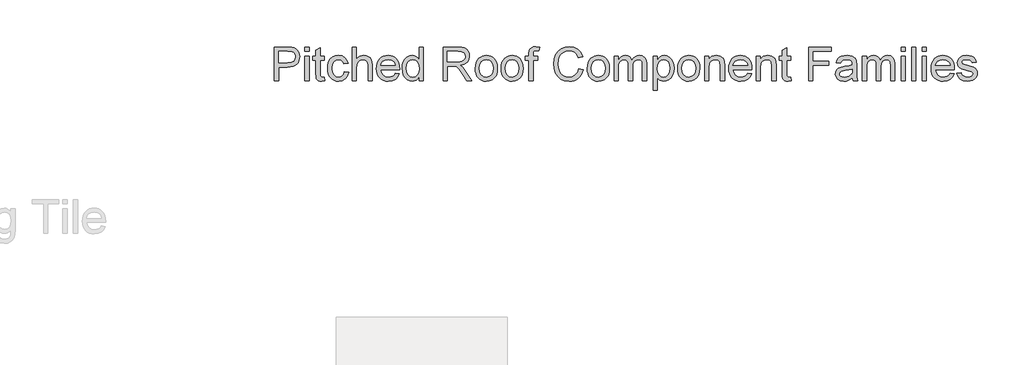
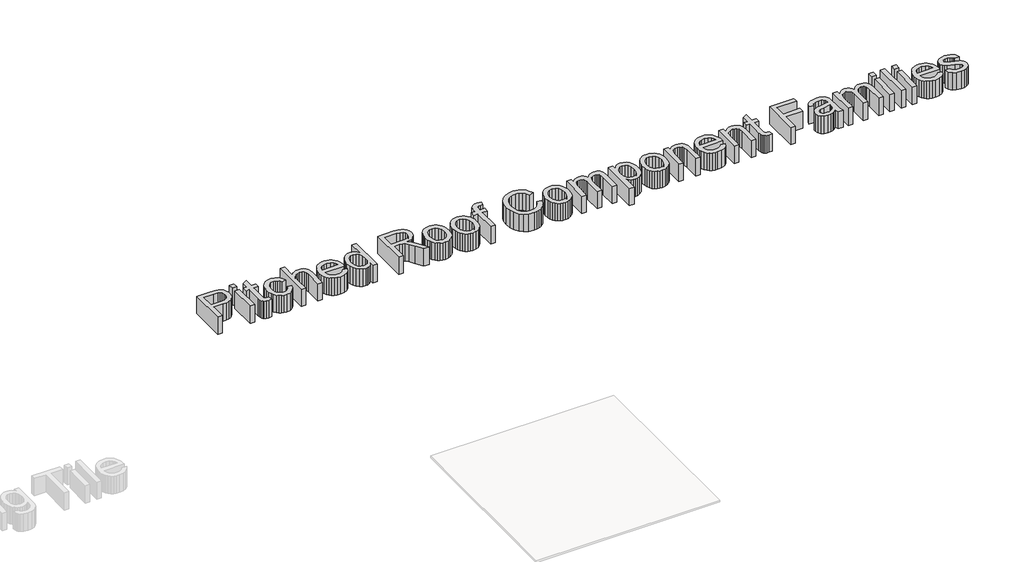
# One storey, part 4 of 4: 1 proxy.
"""IFC4 building model written with IfcOpenShell, lengths in millimetres."""

from ifc_helpers import new_model, si_unit, frame, origin, place, context, project, spatial, polyline, outline, extrude, element, save

model = new_model("IFC4")

# Units and contexts
model_context = context("Model", 3, world=origin())
ifc_project = project(units=[si_unit("LENGTHUNIT", "METRE", prefix="MILLI")], contexts=[model_context])

# Site, building, storey
site = spatial("IfcSite", under=ifc_project)
building = spatial("IfcBuilding", under=site)
storey = spatial("IfcBuildingStorey", under=building, Name="Marley Concrete Interlocking Tiles", Elevation=3000.0)

# Proxy
placement = place(None, origin())
element("IfcBuildingElementProxy", 1, Name="600mm Arial", ObjectType="600mm Arial", at=placement, inside=storey, context=model_context, shape_type="SweptSolid", body=[
    extrude(outline(polyline([(-9179.8301129, 4335.3619966), (-9179.8301129, 4630.746612), (-9070.3589591, 4630.746612), (-9026.2243437, 4627.934112), (-9006.5458581, 4622.6787034), (-8990.3469399, 4614.1240159), (-8977.3030697, 4601.8824293), (-8967.0897283, 4585.5663236), (-8960.4911706, 4566.3205303), (-8958.2916514, 4545.2898813), (-8964.2321562, 4510.4761793), (-8971.6577872, 4495.2463115), (-8982.0536706, 4481.4677659), (-8996.325756, 4470.0464918), (-9015.3799928, 4461.8884389), (-9039.216381, 4456.9936072), (-9067.8349206, 4455.3619966), (-9142.907036, 4455.3619966), (-9142.907036, 4335.3619966), (-9179.8301129, 4335.3619966)]), holes=[polyline([(-9142.907036, 4492.2850736), (-9065.6714591, 4492.2850736), (-9032.9310745, 4495.6744966), (-9011.2964591, 4505.8427659), (-8999.235161, 4522.1588716), (-8995.2147283, 4543.9918043), (-8997.5855216, 4560.5783428), (-9004.6979014, 4574.5687274), (-9015.6684543, 4585.0975736), (-9029.6137668, 4591.2994966), (-9066.5368437, 4593.8235351), (-9142.907036, 4593.8235351), (-9142.907036, 4492.2850736)])]), frame((0.0, 0.0, 3000.0), z_axis=(0.0, 0.0, 1.0), x_axis=(1.0, 0.0, 0.0)), (0.0, 0.0, 1.0), 150.0),
    extrude(outline(polyline([(-8912.1378053, 4335.3619966), (-8912.1378053, 4552.2850736), (-8875.2147283, 4552.2850736), (-8875.2147283, 4335.3619966), (-8912.1378053, 4335.3619966)])), frame((0.0, 0.0, 3000.0), z_axis=(0.0, 0.0, 1.0), x_axis=(1.0, 0.0, 0.0)), (0.0, 0.0, 1.0), 150.0),
    extrude(outline(polyline([(-8912.1378053, 4593.8235351), (-8912.1378053, 4630.746612), (-8875.2147283, 4630.746612), (-8875.2147283, 4593.8235351), (-8912.1378053, 4593.8235351)])), frame((0.0, 0.0, 3000.0), z_axis=(0.0, 0.0, 1.0), x_axis=(1.0, 0.0, 0.0)), (0.0, 0.0, 1.0), 150.0),
    extrude(outline(polyline([(-8741.3685745, 4366.1552659), (-8736.7531899, 4334.2802659), (-8764.3733822, 4330.746612), (-8782.0957379, 4332.2790639), (-8795.3108822, 4336.8764197), (-8804.6498245, 4343.9617563), (-8810.7435745, 4352.9581505), (-8814.0969399, 4368.4088716), (-8815.2147283, 4394.8571889), (-8815.2147283, 4515.3619966), (-8842.907036, 4515.3619966), (-8842.907036, 4552.2850736), (-8815.2147283, 4552.2850736), (-8815.2147283, 4605.0014197), (-8778.2916514, 4626.7081505), (-8778.2916514, 4552.2850736), (-8741.3685745, 4552.2850736), (-8741.3685745, 4515.3619966), (-8778.2916514, 4515.3619966), (-8778.2916514, 4395.9389197), (-8776.344536, 4376.9004582), (-8770.0344399, 4370.1576697), (-8757.4503053, 4367.6696889), (-8741.3685745, 4366.1552659)])), frame((0.0, 0.0, 3000.0), z_axis=(0.0, 0.0, 1.0), x_axis=(1.0, 0.0, 0.0)), (0.0, 0.0, 1.0), 150.0),
    extrude(outline(polyline([(-8565.9839591, 4413.8235351), (-8529.0608822, 4409.2081505), (-8539.3553533, 4376.3686072), (-8558.7003053, 4351.5519005), (-8585.2748245, 4335.9479341), (-8617.2579976, 4330.746612), (-8637.966381, 4332.5607647), (-8656.5338389, 4338.0032226), (-8672.9603714, 4347.0739858), (-8687.2459783, 4359.7730543), (-8698.8092295, 4375.8615459), (-8707.0686947, 4395.1005784), (-8712.0243738, 4417.4901517), (-8713.6762668, 4443.0302659), (-8710.8547524, 4475.887838), (-8702.3902091, 4504.3644005), (-8688.1474206, 4527.3601938), (-8667.9911706, 4543.7754582), (-8643.8775889, 4553.6192082), (-8617.7628053, 4556.9004582), (-8586.563887, 4552.3932466), (-8561.6209783, 4538.871612), (-8543.7273485, 4517.0567082), (-8533.6762668, 4487.6696889), (-8570.5993437, 4483.0543043), (-8577.2970601, 4499.1630784), (-8587.7267476, 4510.7105543), (-8601.3114831, 4517.6606745), (-8617.4743437, 4519.9773813), (-8641.3355216, 4515.4160832), (-8660.2748245, 4501.7321889), (-8672.6335985, 4478.1865159), (-8676.7531899, 4444.0398813), (-8672.7237428, 4409.4335111), (-8660.6354014, 4385.8067082), (-8642.0386466, 4372.2039438), (-8618.4839591, 4367.6696889), (-8599.3643678, 4370.5002178), (-8583.688286, 4378.9918043), (-8572.2850408, 4393.3607947), (-8565.9839591, 4413.8235351)])), frame((0.0, 0.0, 3000.0), z_axis=(0.0, 0.0, 1.0), x_axis=(1.0, 0.0, 0.0)), (0.0, 0.0, 1.0), 150.0),
    extrude(outline(polyline([(-8496.7531899, 4335.3619966), (-8496.7531899, 4630.746612), (-8459.8301129, 4630.746612), (-8459.8301129, 4522.1408428), (-8446.2679134, 4537.3481745), (-8431.0380456, 4548.2105543), (-8414.1405096, 4554.7279822), (-8395.5753053, 4556.9004582), (-8373.2736226, 4554.5296649), (-8354.1089591, 4547.4172851), (-8339.0188149, 4536.122213), (-8328.9406899, 4521.2033428), (-8323.2616033, 4500.7045447), (-8321.3685745, 4472.6696889), (-8321.3685745, 4335.3619966), (-8358.2916514, 4335.3619966), (-8358.2916514, 4468.8475736), (-8361.2303533, 4491.9605543), (-8370.0464591, 4507.7898813), (-8384.2531899, 4516.9305063), (-8403.3637668, 4519.9773813), (-8418.9677331, 4517.9220928), (-8433.6161706, 4511.7562274), (-8445.7495841, 4502.074737), (-8453.8084783, 4489.4725736), (-8458.3247043, 4472.7237755), (-8459.8301129, 4450.6023813), (-8459.8301129, 4335.3619966), (-8496.7531899, 4335.3619966)])), frame((0.0, 0.0, 3000.0), z_axis=(0.0, 0.0, 1.0), x_axis=(1.0, 0.0, 0.0)), (0.0, 0.0, 1.0), 150.0),
    extrude(outline(polyline([(-8118.7243437, 4399.9773813), (-8082.5224206, 4395.3619966), (-8095.5662908, 4368.0843524), (-8116.3805937, 4347.6937274), (-8144.4965793, 4334.9833909), (-8179.4454976, 4330.746612), (-8202.3556538, 4332.5742863), (-8222.7688149, 4338.0573091), (-8240.6849807, 4347.1956805), (-8256.1041514, 4359.9894005), (-8268.5034903, 4376.0823993), (-8277.360161, 4395.1186072), (-8282.6741634, 4417.0980243), (-8284.4454976, 4442.0206505), (-8282.6561346, 4467.7883789), (-8277.2880456, 4490.5002178), (-8268.3412307, 4510.1561673), (-8255.8156899, 4526.7562274), (-8240.4370841, 4539.9443284), (-8222.9310745, 4549.3644005), (-8203.297661, 4555.0164438), (-8181.5368437, 4556.9004582), (-8160.4768978, 4555.020951), (-8141.4316754, 4549.3824293), (-8124.4011766, 4539.9848933), (-8109.3854014, 4526.8283428), (-8097.1280396, 4510.2643404), (-8088.3727812, 4490.6444486), (-8083.1196262, 4467.9686673), (-8081.3685745, 4442.2369966), (-8081.5849206, 4432.2850736), (-8247.5224206, 4432.2850736), (-8241.1311947, 4404.6468524), (-8226.2844399, 4384.3283428), (-8204.8571562, 4371.8343524), (-8178.7243437, 4367.6696889), (-8159.0729014, 4369.5987755), (-8142.5224206, 4375.3860351), (-8129.0729014, 4385.3920447), (-8118.7243437, 4399.9773813)]), holes=[polyline([(-8247.5224206, 4469.2081505), (-8118.2916514, 4469.2081505), (-8123.2856418, 4488.715362), (-8133.0753053, 4502.6696889), (-8154.6017476, 4515.6504582), (-8181.6810745, 4519.9773813), (-8206.5698966, 4516.5248572), (-8227.1498245, 4506.1672851), (-8241.4557139, 4490.0224534), (-8247.5224206, 4469.2081505)])]), frame((0.0, 0.0, 3000.0), z_axis=(0.0, 0.0, 1.0), x_axis=(1.0, 0.0, 0.0)), (0.0, 0.0, 1.0), 150.0),
    extrude(outline(polyline([(-7910.5993437, 4335.3619966), (-7910.5993437, 4370.1937274), (-7921.6465192, 4352.9356144), (-7935.0284303, 4340.6083909), (-7950.7450769, 4333.2120567), (-7968.7964591, 4330.746612), (-7992.6666514, 4334.3163236), (-8014.5176129, 4345.0254582), (-8033.0152091, 4362.1258188), (-8046.8253053, 4384.8692082), (-8055.4250649, 4412.3361553), (-8058.2916514, 4443.6071889), (-8055.6504254, 4474.4906024), (-8047.7267476, 4502.3812274), (-8034.5296322, 4525.6925255), (-8016.0680937, 4542.8379582), (-7993.7393678, 4553.3848332), (-7968.9406899, 4556.9004582), (-7950.875786, 4554.3854341), (-7934.9022283, 4546.840362), (-7921.3625649, 4535.2748572), (-7910.5993437, 4520.6985351), (-7910.5993437, 4630.746612), (-7873.6762668, 4630.746612), (-7873.6762668, 4335.3619966), (-7910.5993437, 4335.3619966)]), holes=[polyline([(-8021.3685745, 4443.7514197), (-8017.203911, 4410.3529822), (-8004.7099206, 4386.5999774), (-7986.5548726, 4372.4022611), (-7965.407036, 4367.6696889), (-7944.2682139, 4372.1859149), (-7926.5729014, 4385.7345928), (-7914.5927331, 4408.5681264), (-7910.5993437, 4440.9389197), (-7914.6648485, 4476.3295447), (-7926.8613629, 4500.8668043), (-7945.0073966, 4515.199737), (-7966.9214591, 4519.9773813), (-7988.2856418, 4515.3890399), (-8005.7916514, 4501.6240159), (-8017.4743437, 4477.9791841), (-8021.3685745, 4443.7514197)])]), frame((0.0, 0.0, 3000.0), z_axis=(0.0, 0.0, 1.0), x_axis=(1.0, 0.0, 0.0)), (0.0, 0.0, 1.0), 150.0),
    extrude(outline(polyline([(-7698.2916514, 4335.3619966), (-7698.2916514, 4630.746612), (-7571.0079976, 4630.746612), (-7536.798262, 4628.7544245), (-7511.9094399, 4622.777862), (-7493.7183341, 4611.7442082), (-7479.6017476, 4594.5807466), (-7470.5422524, 4573.2976938), (-7467.5224206, 4549.9052659), (-7472.5254254, 4520.8067082), (-7487.5344399, 4496.684112), (-7498.903881, 4486.8538837), (-7513.0001851, 4478.9978139), (-7549.3733822, 4469.2081505), (-7528.3878053, 4453.4148813), (-7498.4599206, 4415.4100736), (-7449.2051129, 4335.3619966), (-7492.1137668, 4335.3619966), (-7530.5512668, 4396.5879582), (-7558.3156899, 4437.1168043), (-7577.8229014, 4456.2634389), (-7595.3829976, 4463.2946889), (-7616.8012668, 4464.5927659), (-7661.3685745, 4464.5927659), (-7661.3685745, 4335.3619966), (-7698.2916514, 4335.3619966)]), holes=[polyline([(-7661.3685745, 4501.5158428), (-7578.7243437, 4501.5158428), (-7554.9893678, 4502.8229341), (-7536.5729014, 4506.7442082), (-7522.7087187, 4513.5410832), (-7512.6305937, 4523.4749774), (-7506.4917716, 4535.4912034), (-7504.4454976, 4548.5350736), (-7508.3487428, 4566.5458909), (-7520.0584783, 4581.059112), (-7540.2057139, 4590.6324293), (-7569.4214591, 4593.8235351), (-7661.3685745, 4593.8235351), (-7661.3685745, 4501.5158428)])]), frame((0.0, 0.0, 3000.0), z_axis=(0.0, 0.0, 1.0), x_axis=(1.0, 0.0, 0.0)), (0.0, 0.0, 1.0), 150.0),
    extrude(outline(polyline([(-7416.7531899, 4443.8235351), (-7414.7564952, 4471.9169846), (-7408.766411, 4496.1252178), (-7398.7829375, 4516.4482346), (-7384.8060745, 4532.8860351), (-7370.7345601, 4543.3923452), (-7355.2027091, 4550.8968524), (-7338.2105216, 4555.3995567), (-7319.7579976, 4556.9004582), (-7299.387655, 4555.0727839), (-7280.9689351, 4549.5897611), (-7264.5018377, 4540.4513897), (-7249.9863629, 4527.6576697), (-7238.1391574, 4511.6412935), (-7229.6768678, 4492.8349534), (-7224.599494, 4471.2386493), (-7222.907036, 4446.8523813), (-7225.8998245, 4409.5506986), (-7234.8781899, 4381.1552659), (-7249.5807139, 4359.8902418), (-7269.7459783, 4343.9797851), (-7293.6973004, 4334.0549053), (-7319.7579976, 4330.746612), (-7340.4258161, 4332.5675255), (-7359.0158101, 4338.0302659), (-7375.5279795, 4347.1348332), (-7389.9623245, 4359.8812274), (-7401.6833281, 4376.0531024), (-7410.0554735, 4395.434112), (-7415.0787608, 4418.0242563), (-7416.7531899, 4443.8235351)]), holes=[polyline([(-7379.8301129, 4443.8956505), (-7375.5572764, 4410.4791841), (-7362.7387668, 4386.6720928), (-7343.4479014, 4372.4202899), (-7319.7579976, 4367.6696889), (-7296.1762668, 4372.4473332), (-7276.9214591, 4386.7802659), (-7264.1029495, 4410.902862), (-7259.8301129, 4445.0494966), (-7264.1299928, 4477.4924053), (-7277.0296322, 4500.9749774), (-7296.3114831, 4515.2267803), (-7319.7579976, 4519.9773813), (-7343.4479014, 4515.2448091), (-7362.7387668, 4501.0470928), (-7375.5572764, 4477.294088), (-7379.8301129, 4443.8956505)])]), frame((0.0, 0.0, 3000.0), z_axis=(0.0, 0.0, 1.0), x_axis=(1.0, 0.0, 0.0)), (0.0, 0.0, 1.0), 150.0),
    extrude(outline(polyline([(-7190.5993437, 4443.8235351), (-7188.602649, 4471.9169846), (-7182.6125649, 4496.1252178), (-7172.6290913, 4516.4482346), (-7158.6522283, 4532.8860351), (-7144.5807139, 4543.3923452), (-7129.0488629, 4550.8968524), (-7112.0566754, 4555.3995567), (-7093.6041514, 4556.9004582), (-7073.2338089, 4555.0727839), (-7054.8150889, 4549.5897611), (-7038.3479916, 4540.4513897), (-7023.8325168, 4527.6576697), (-7011.9853113, 4511.6412935), (-7003.5230216, 4492.8349534), (-6998.4456478, 4471.2386493), (-6996.7531899, 4446.8523813), (-6999.7459783, 4409.5506986), (-7008.7243437, 4381.1552659), (-7023.4268678, 4359.8902418), (-7043.5921322, 4343.9797851), (-7067.5434543, 4334.0549053), (-7093.6041514, 4330.746612), (-7114.2719699, 4332.5675255), (-7132.8619639, 4338.0302659), (-7149.3741334, 4347.1348332), (-7163.8084783, 4359.8812274), (-7175.5294819, 4376.0531024), (-7183.9016274, 4395.434112), (-7188.9249146, 4418.0242563), (-7190.5993437, 4443.8235351)]), holes=[polyline([(-7153.6762668, 4443.8956505), (-7149.4034303, 4410.4791841), (-7136.5849206, 4386.6720928), (-7117.2940553, 4372.4202899), (-7093.6041514, 4367.6696889), (-7070.0224206, 4372.4473332), (-7050.7676129, 4386.7802659), (-7037.9491033, 4410.902862), (-7033.6762668, 4445.0494966), (-7037.9761466, 4477.4924053), (-7050.875786, 4500.9749774), (-7070.157637, 4515.2267803), (-7093.6041514, 4519.9773813), (-7117.2940553, 4515.2448091), (-7136.5849206, 4501.0470928), (-7149.4034303, 4477.294088), (-7153.6762668, 4443.8956505)])]), frame((0.0, 0.0, 3000.0), z_axis=(0.0, 0.0, 1.0), x_axis=(1.0, 0.0, 0.0)), (0.0, 0.0, 1.0), 150.0),
    extrude(outline(polyline([(-6945.9839591, 4335.3619966), (-6945.9839591, 4515.3619966), (-6978.2916514, 4515.3619966), (-6978.2916514, 4552.2850736), (-6945.9839591, 4552.2850736), (-6945.9839591, 4574.1360351), (-6942.0897283, 4604.9293043), (-6934.6618437, 4617.2069486), (-6923.1954976, 4626.9244966), (-6907.1498245, 4633.2526216), (-6885.9839591, 4635.3619966), (-6852.3060745, 4631.3235351), (-6857.7147283, 4596.7081505), (-6878.9887668, 4598.4389197), (-6893.0242235, 4596.9064678), (-6902.2459783, 4592.309112), (-6907.3571562, 4583.5290639), (-6909.0608822, 4569.4485351), (-6909.0608822, 4552.2850736), (-6867.5224206, 4552.2850736), (-6867.5224206, 4515.3619966), (-6909.0608822, 4515.3619966), (-6909.0608822, 4335.3619966), (-6945.9839591, 4335.3619966)])), frame((0.0, 0.0, 3000.0), z_axis=(0.0, 0.0, 1.0), x_axis=(1.0, 0.0, 0.0)), (0.0, 0.0, 1.0), 150.0),
    extrude(outline(polyline([(-6507.5224206, 4440.3619966), (-6470.5993437, 4430.8427659), (-6477.9055336, 4407.8807767), (-6487.6366033, 4387.8169245), (-6499.7925528, 4370.6512094), (-6514.3733822, 4356.3836313), (-6531.0500649, 4345.1674353), (-6549.4935745, 4337.1558668), (-6569.703911, 4332.3489257), (-6591.6810745, 4330.746612), (-6634.5085985, 4335.5963716), (-6668.5200168, 4350.1456505), (-6694.5897283, 4373.8896409), (-6713.5921322, 4406.3235351), (-6725.1936947, 4444.4545447), (-6729.0608822, 4485.2898813), (-6724.688887, 4528.3607947), (-6711.5729014, 4565.5543043), (-6690.3980216, 4595.6895207), (-6661.8493437, 4617.5855543), (-6627.9911706, 4630.9178861), (-6590.8878053, 4635.3619966), (-6550.4040312, 4629.6107947), (-6532.7921021, 4622.4217923), (-6516.9334783, 4612.3571889), (-6503.0895781, 4599.6829101), (-6491.5218197, 4584.6648813), (-6475.2147283, 4547.5975736), (-6512.1378053, 4538.7994966), (-6524.938286, 4565.7255784), (-6542.4262668, 4584.1961313), (-6564.8180937, 4594.8782226), (-6592.3301129, 4598.4389197), (-6624.0428533, 4594.4906024), (-6650.094536, 4582.6456505), (-6669.8631658, 4564.1480543), (-6682.7267476, 4540.2418043), (-6689.7850408, 4513.2165639), (-6692.1378053, 4485.3619966), (-6689.3523485, 4451.2514197), (-6680.9959783, 4421.7562274), (-6666.7531899, 4398.0032226), (-6646.3084783, 4381.1192082), (-6621.798262, 4371.0320688), (-6595.3589591, 4367.6696889), (-6564.5386466, 4372.2490159), (-6538.8565553, 4385.9869966), (-6519.4665312, 4408.7394005), (-6507.5224206, 4440.3619966)])), frame((0.0, 0.0, 3000.0), z_axis=(0.0, 0.0, 1.0), x_axis=(1.0, 0.0, 0.0)), (0.0, 0.0, 1.0), 150.0),
    extrude(outline(polyline([(-6433.6762668, 4443.8235351), (-6431.6795721, 4471.9169846), (-6425.6894879, 4496.1252178), (-6415.7060144, 4516.4482346), (-6401.7291514, 4532.8860351), (-6387.657637, 4543.3923452), (-6372.125786, 4550.8968524), (-6355.1335985, 4555.3995567), (-6336.6810745, 4556.9004582), (-6316.3107319, 4555.0727839), (-6297.892012, 4549.5897611), (-6281.4249146, 4540.4513897), (-6266.9094399, 4527.6576697), (-6255.0622343, 4511.6412935), (-6246.5999447, 4492.8349534), (-6241.5225709, 4471.2386493), (-6239.8301129, 4446.8523813), (-6242.8229014, 4409.5506986), (-6251.8012668, 4381.1552659), (-6266.5037908, 4359.8902418), (-6286.6690553, 4343.9797851), (-6310.6203774, 4334.0549053), (-6336.6810745, 4330.746612), (-6357.348893, 4332.5675255), (-6375.938887, 4338.0302659), (-6392.4510565, 4347.1348332), (-6406.8854014, 4359.8812274), (-6418.606405, 4376.0531024), (-6426.9785504, 4395.434112), (-6432.0018377, 4418.0242563), (-6433.6762668, 4443.8235351)]), holes=[polyline([(-6396.7531899, 4443.8956505), (-6392.4803533, 4410.4791841), (-6379.6618437, 4386.6720928), (-6360.3709783, 4372.4202899), (-6336.6810745, 4367.6696889), (-6313.0993437, 4372.4473332), (-6293.844536, 4386.7802659), (-6281.0260264, 4410.902862), (-6276.7531899, 4445.0494966), (-6281.0530697, 4477.4924053), (-6293.9527091, 4500.9749774), (-6313.2345601, 4515.2267803), (-6336.6810745, 4519.9773813), (-6360.3709783, 4515.2448091), (-6379.6618437, 4501.0470928), (-6392.4803533, 4477.294088), (-6396.7531899, 4443.8956505)])]), frame((0.0, 0.0, 3000.0), z_axis=(0.0, 0.0, 1.0), x_axis=(1.0, 0.0, 0.0)), (0.0, 0.0, 1.0), 150.0),
    extrude(outline(polyline([(-6198.2916514, 4335.3619966), (-6198.2916514, 4552.2850736), (-6161.3685745, 4552.2850736), (-6161.3685745, 4516.5879582), (-6150.2628053, 4532.9851938), (-6135.9839591, 4545.8307466), (-6119.0188149, 4554.1330303), (-6099.8541514, 4556.9004582), (-6079.3192956, 4554.0789438), (-6062.8589591, 4545.6144005), (-6050.563286, 4532.0657226), (-6042.5224206, 4513.9918043), (-6029.063887, 4532.7643404), (-6013.7123245, 4546.1732947), (-5996.4677331, 4554.2186673), (-5977.3301129, 4556.9004582), (-5949.5747043, 4552.4383188), (-5929.0488629, 4539.0519005), (-5916.3655697, 4516.3806264), (-5912.1378053, 4484.0639197), (-5912.1378053, 4335.3619966), (-5949.0608822, 4335.3619966), (-5949.0608822, 4468.1985351), (-5952.4863629, 4499.027862), (-5957.3000649, 4507.528463), (-5964.8902091, 4514.2081505), (-5974.6528293, 4518.5350736), (-5985.9839591, 4519.9773813), (-6005.9869639, 4516.2814678), (-6022.2940553, 4505.1937274), (-6033.1384062, 4485.9569486), (-6036.7531899, 4457.8139197), (-6036.7531899, 4335.3619966), (-6073.6762668, 4335.3619966), (-6073.6762668, 4472.309112), (-6075.8126851, 4493.1865159), (-6082.2219399, 4508.0783428), (-6093.4989831, 4517.0026216), (-6110.2387668, 4519.9773813), (-6124.4635264, 4517.9942082), (-6137.5704976, 4512.0446889), (-6148.3878053, 4502.2730543), (-6155.7435745, 4488.8235351), (-6159.9623245, 4470.1636793), (-6161.3685745, 4444.7610351), (-6161.3685745, 4335.3619966), (-6198.2916514, 4335.3619966)])), frame((0.0, 0.0, 3000.0), z_axis=(0.0, 0.0, 1.0), x_axis=(1.0, 0.0, 0.0)), (0.0, 0.0, 1.0), 150.0),
    extrude(outline(polyline([(-5856.7531899, 4252.2850736), (-5856.7531899, 4552.2850736), (-5819.8301129, 4552.2850736), (-5819.8301129, 4516.0831505), (-5807.7868437, 4533.9407226), (-5794.3012668, 4546.6961313), (-5778.5801129, 4554.3493764), (-5759.8301129, 4556.9004582), (-5734.860161, 4553.3307466), (-5713.0272283, 4542.621612), (-5695.250786, 4525.4220928), (-5682.4503053, 4502.3812274), (-5674.7159303, 4475.1756986), (-5672.1378053, 4445.4821889), (-5675.0494639, 4413.9046649), (-5683.7844399, 4385.6624774), (-5698.063286, 4362.1889197), (-5717.6065553, 4344.9172851), (-5740.3679735, 4334.2892803), (-5764.3012668, 4330.746612), (-5781.2754254, 4333.1174053), (-5796.4286706, 4340.2297851), (-5809.4004254, 4350.965963), (-5819.8301129, 4364.2081505), (-5819.8301129, 4252.2850736), (-5856.7531899, 4252.2850736)]), holes=[polyline([(-5819.8301129, 4442.0927659), (-5815.8367235, 4408.9918043), (-5803.8565553, 4385.8427659), (-5786.1792716, 4372.2129582), (-5765.094536, 4367.6696889), (-5743.6672524, 4372.3752178), (-5725.5392476, 4386.4918043), (-5713.1804735, 4410.4881986), (-5709.0608822, 4444.8331505), (-5713.0813149, 4477.7538236), (-5725.1426129, 4501.2273813), (-5742.7928533, 4515.2898813), (-5763.5801129, 4519.9773813), (-5784.4485024, 4514.9924053), (-5802.7748245, 4500.0374774), (-5815.5662908, 4475.5813476), (-5819.8301129, 4442.0927659)])]), frame((0.0, 0.0, 3000.0), z_axis=(0.0, 0.0, 1.0), x_axis=(1.0, 0.0, 0.0)), (0.0, 0.0, 1.0), 150.0),
    extrude(outline(polyline([(-5639.8301129, 4443.8235351), (-5637.8334182, 4471.9169846), (-5631.8433341, 4496.1252178), (-5621.8598605, 4516.4482346), (-5607.8829976, 4532.8860351), (-5593.8114831, 4543.3923452), (-5578.2796322, 4550.8968524), (-5561.2874447, 4555.3995567), (-5542.8349206, 4556.9004582), (-5522.4645781, 4555.0727839), (-5504.0458581, 4549.5897611), (-5487.5787608, 4540.4513897), (-5473.063286, 4527.6576697), (-5461.2160805, 4511.6412935), (-5452.7537908, 4492.8349534), (-5447.676417, 4471.2386493), (-5445.9839591, 4446.8523813), (-5448.9767476, 4409.5506986), (-5457.9551129, 4381.1552659), (-5472.657637, 4359.8902418), (-5492.8229014, 4343.9797851), (-5516.7742235, 4334.0549053), (-5542.8349206, 4330.746612), (-5563.5027391, 4332.5675255), (-5582.0927331, 4338.0302659), (-5598.6049026, 4347.1348332), (-5613.0392476, 4359.8812274), (-5624.7602512, 4376.0531024), (-5633.1323966, 4395.434112), (-5638.1556839, 4418.0242563), (-5639.8301129, 4443.8235351)]), holes=[polyline([(-5602.907036, 4443.8956505), (-5598.6341995, 4410.4791841), (-5585.8156899, 4386.6720928), (-5566.5248245, 4372.4202899), (-5542.8349206, 4367.6696889), (-5519.2531899, 4372.4473332), (-5499.9983822, 4386.7802659), (-5487.1798726, 4410.902862), (-5482.907036, 4445.0494966), (-5487.2069158, 4477.4924053), (-5500.1065553, 4500.9749774), (-5519.3884062, 4515.2267803), (-5542.8349206, 4519.9773813), (-5566.5248245, 4515.2448091), (-5585.8156899, 4501.0470928), (-5598.6341995, 4477.294088), (-5602.907036, 4443.8956505)])]), frame((0.0, 0.0, 3000.0), z_axis=(0.0, 0.0, 1.0), x_axis=(1.0, 0.0, 0.0)), (0.0, 0.0, 1.0), 150.0),
    extrude(outline(polyline([(-5404.4454976, 4335.3619966), (-5404.4454976, 4552.2850736), (-5367.5224206, 4552.2850736), (-5367.5224206, 4521.996612), (-5354.6948966, 4537.2670447), (-5339.2892476, 4548.1744966), (-5321.3054735, 4554.7189678), (-5300.7435745, 4556.9004582), (-5282.5434543, 4555.1426457), (-5265.875786, 4549.8692082), (-5251.9755456, 4541.7381986), (-5242.0777091, 4531.4076697), (-5231.0079976, 4504.2562274), (-5229.0608822, 4468.559112), (-5229.0608822, 4335.3619966), (-5265.9839591, 4335.3619966), (-5265.9839591, 4463.5831505), (-5270.2387668, 4496.2514197), (-5276.1251851, 4505.9779822), (-5285.2748245, 4513.5230543), (-5297.0025889, 4518.3637995), (-5310.6233822, 4519.9773813), (-5332.2489831, 4516.3535832), (-5350.6834783, 4505.4821889), (-5358.0505156, 4496.6074894), (-5363.3126851, 4484.4785832), (-5367.5224206, 4450.4581505), (-5367.5224206, 4335.3619966), (-5404.4454976, 4335.3619966)])), frame((0.0, 0.0, 3000.0), z_axis=(0.0, 0.0, 1.0), x_axis=(1.0, 0.0, 0.0)), (0.0, 0.0, 1.0), 150.0),
    extrude(outline(polyline([(-5026.4166514, 4399.9773813), (-4990.2147283, 4395.3619966), (-5003.2585985, 4368.0843524), (-5024.0729014, 4347.6937274), (-5052.188887, 4334.9833909), (-5087.1378053, 4330.746612), (-5110.0479615, 4332.5742863), (-5130.4611226, 4338.0573091), (-5148.3772884, 4347.1956805), (-5163.7964591, 4359.9894005), (-5176.195798, 4376.0823993), (-5185.0524687, 4395.1186072), (-5190.3664711, 4417.0980243), (-5192.1378053, 4442.0206505), (-5190.3484423, 4467.7883789), (-5184.9803533, 4490.5002178), (-5176.0335384, 4510.1561673), (-5163.5079976, 4526.7562274), (-5148.1293918, 4539.9443284), (-5130.6233822, 4549.3644005), (-5110.9899687, 4555.0164438), (-5089.2291514, 4556.9004582), (-5068.1692055, 4555.020951), (-5049.1239831, 4549.3824293), (-5032.0934843, 4539.9848933), (-5017.0777091, 4526.8283428), (-5004.8203473, 4510.2643404), (-4996.0650889, 4490.6444486), (-4990.8119339, 4467.9686673), (-4989.0608822, 4442.2369966), (-4989.2772283, 4432.2850736), (-5155.2147283, 4432.2850736), (-5148.8235024, 4404.6468524), (-5133.9767476, 4384.3283428), (-5112.5494639, 4371.8343524), (-5086.4166514, 4367.6696889), (-5066.7652091, 4369.5987755), (-5050.2147283, 4375.3860351), (-5036.7652091, 4385.3920447), (-5026.4166514, 4399.9773813)]), holes=[polyline([(-5155.2147283, 4469.2081505), (-5025.9839591, 4469.2081505), (-5030.9779495, 4488.715362), (-5040.7676129, 4502.6696889), (-5062.2940553, 4515.6504582), (-5089.3733822, 4519.9773813), (-5114.2622043, 4516.5248572), (-5134.8421322, 4506.1672851), (-5149.1480216, 4490.0224534), (-5155.2147283, 4469.2081505)])]), frame((0.0, 0.0, 3000.0), z_axis=(0.0, 0.0, 1.0), x_axis=(1.0, 0.0, 0.0)), (0.0, 0.0, 1.0), 150.0),
    extrude(outline(polyline([(-4952.1378053, 4335.3619966), (-4952.1378053, 4552.2850736), (-4915.2147283, 4552.2850736), (-4915.2147283, 4521.996612), (-4902.3872043, 4537.2670447), (-4886.9815553, 4548.1744966), (-4868.9977812, 4554.7189678), (-4848.4358822, 4556.9004582), (-4830.235762, 4555.1426457), (-4813.5680937, 4549.8692082), (-4799.6678533, 4541.7381986), (-4789.7700168, 4531.4076697), (-4778.7003053, 4504.2562274), (-4776.7531899, 4468.559112), (-4776.7531899, 4335.3619966), (-4813.6762668, 4335.3619966), (-4813.6762668, 4463.5831505), (-4817.9310745, 4496.2514197), (-4823.8174928, 4505.9779822), (-4832.9671322, 4513.5230543), (-4844.6948966, 4518.3637995), (-4858.3156899, 4519.9773813), (-4879.9412908, 4516.3535832), (-4898.375786, 4505.4821889), (-4905.7428233, 4496.6074894), (-4911.0049928, 4484.4785832), (-4915.2147283, 4450.4581505), (-4915.2147283, 4335.3619966), (-4952.1378053, 4335.3619966)])), frame((0.0, 0.0, 3000.0), z_axis=(0.0, 0.0, 1.0), x_axis=(1.0, 0.0, 0.0)), (0.0, 0.0, 1.0), 150.0),
    extrude(outline(polyline([(-4647.5224206, 4366.1552659), (-4642.907036, 4334.2802659), (-4670.5272283, 4330.746612), (-4688.2495841, 4332.2790639), (-4701.4647283, 4336.8764197), (-4710.8036706, 4343.9617563), (-4716.8974206, 4352.9581505), (-4720.250786, 4368.4088716), (-4721.3685745, 4394.8571889), (-4721.3685745, 4515.3619966), (-4749.0608822, 4515.3619966), (-4749.0608822, 4552.2850736), (-4721.3685745, 4552.2850736), (-4721.3685745, 4605.0014197), (-4684.4454976, 4626.7081505), (-4684.4454976, 4552.2850736), (-4647.5224206, 4552.2850736), (-4647.5224206, 4515.3619966), (-4684.4454976, 4515.3619966), (-4684.4454976, 4395.9389197), (-4682.4983822, 4376.9004582), (-4676.188286, 4370.1576697), (-4663.6041514, 4367.6696889), (-4647.5224206, 4366.1552659)])), frame((0.0, 0.0, 3000.0), z_axis=(0.0, 0.0, 1.0), x_axis=(1.0, 0.0, 0.0)), (0.0, 0.0, 1.0), 150.0),
    extrude(outline(polyline([(-4490.5993437, 4335.3619966), (-4490.5993437, 4630.746612), (-4292.1378053, 4630.746612), (-4292.1378053, 4593.8235351), (-4453.6762668, 4593.8235351), (-4453.6762668, 4506.1312274), (-4315.2147283, 4506.1312274), (-4315.2147283, 4469.2081505), (-4453.6762668, 4469.2081505), (-4453.6762668, 4335.3619966), (-4490.5993437, 4335.3619966)])), frame((0.0, 0.0, 3000.0), z_axis=(0.0, 0.0, 1.0), x_axis=(1.0, 0.0, 0.0)), (0.0, 0.0, 1.0), 150.0),
    extrude(outline(polyline([(-4107.5224206, 4363.0543043), (-4125.1636466, 4347.9281024), (-4143.3277091, 4338.0302659), (-4162.4292716, 4332.5675255), (-4182.8829976, 4330.746612), (-4213.7393678, 4335.1276216), (-4236.500786, 4348.2706505), (-4250.5362428, 4368.2285832), (-4255.2147283, 4393.0543043), (-4253.4479014, 4408.3607947), (-4248.1474206, 4422.2610351), (-4239.9713389, 4434.1600736), (-4229.5777091, 4443.4629582), (-4203.7243437, 4455.5783428), (-4171.7772283, 4461.1312274), (-4134.0248245, 4466.9725736), (-4107.7387668, 4473.8235351), (-4107.5224206, 4482.0446889), (-4110.0644879, 4498.5230543), (-4117.6906899, 4509.3043043), (-4134.7459783, 4517.309112), (-4158.5079976, 4519.9773813), (-4180.5031899, 4518.2015399), (-4195.8637668, 4512.8740159), (-4206.3385264, 4503.0212514), (-4213.6762668, 4487.6696889), (-4250.5993437, 4492.2850736), (-4244.1900889, 4512.4773813), (-4234.625786, 4528.3427659), (-4221.0140072, 4540.4761793), (-4202.4623245, 4549.4725736), (-4179.7730216, 4555.043487), (-4153.7483822, 4556.9004582), (-4128.7874447, 4555.2598332), (-4109.000786, 4550.3379582), (-4094.0819158, 4542.9371168), (-4083.7243437, 4533.8595928), (-4076.8553533, 4522.6366361), (-4072.4022283, 4508.7994966), (-4070.5993437, 4476.4918043), (-4070.5993437, 4430.5543043), (-4068.7243437, 4366.4076697), (-4061.3685745, 4335.3619966), (-4098.2916514, 4335.3619966), (-4107.5224206, 4363.0543043)]), holes=[polyline([(-4107.5224206, 4436.9004582), (-4167.0897283, 4425.5783428), (-4198.8565553, 4419.5927659), (-4213.2435745, 4409.8571889), (-4218.2916514, 4395.6504582), (-4215.5422524, 4384.6708909), (-4207.2940553, 4375.6744966), (-4193.7273485, 4369.6708909), (-4175.0224206, 4367.6696889), (-4155.1906899, 4369.8782226), (-4137.6666514, 4376.5038236), (-4123.4599206, 4386.2664438), (-4113.5801129, 4397.8860351), (-4109.1991033, 4409.8571889), (-4107.7387668, 4426.4437274), (-4107.5224206, 4436.9004582)])]), frame((0.0, 0.0, 3000.0), z_axis=(0.0, 0.0, 1.0), x_axis=(1.0, 0.0, 0.0)), (0.0, 0.0, 1.0), 150.0),
    extrude(outline(polyline([(-4019.8301129, 4335.3619966), (-4019.8301129, 4552.2850736), (-3982.907036, 4552.2850736), (-3982.907036, 4516.5879582), (-3971.8012668, 4532.9851938), (-3957.5224206, 4545.8307466), (-3940.5572764, 4554.1330303), (-3921.3926129, 4556.9004582), (-3900.8577572, 4554.0789438), (-3884.3974206, 4545.6144005), (-3872.1017476, 4532.0657226), (-3864.0608822, 4513.9918043), (-3850.6023485, 4532.7643404), (-3835.250786, 4546.1732947), (-3818.0061947, 4554.2186673), (-3798.8685745, 4556.9004582), (-3771.1131658, 4552.4383188), (-3750.5873245, 4539.0519005), (-3737.9040312, 4516.3806264), (-3733.6762668, 4484.0639197), (-3733.6762668, 4335.3619966), (-3770.5993437, 4335.3619966), (-3770.5993437, 4468.1985351), (-3774.0248245, 4499.027862), (-3778.8385264, 4507.528463), (-3786.4286706, 4514.2081505), (-3796.1912908, 4518.5350736), (-3807.5224206, 4519.9773813), (-3827.5254254, 4516.2814678), (-3843.8325168, 4505.1937274), (-3854.6768678, 4485.9569486), (-3858.2916514, 4457.8139197), (-3858.2916514, 4335.3619966), (-3895.2147283, 4335.3619966), (-3895.2147283, 4472.309112), (-3897.3511466, 4493.1865159), (-3903.7604014, 4508.0783428), (-3915.0374447, 4517.0026216), (-3931.7772283, 4519.9773813), (-3946.0019879, 4517.9942082), (-3959.1089591, 4512.0446889), (-3969.9262668, 4502.2730543), (-3977.282036, 4488.8235351), (-3981.500786, 4470.1636793), (-3982.907036, 4444.7610351), (-3982.907036, 4335.3619966), (-4019.8301129, 4335.3619966)])), frame((0.0, 0.0, 3000.0), z_axis=(0.0, 0.0, 1.0), x_axis=(1.0, 0.0, 0.0)), (0.0, 0.0, 1.0), 150.0),
    extrude(outline(polyline([(-3678.2916514, 4335.3619966), (-3678.2916514, 4552.2850736), (-3641.3685745, 4552.2850736), (-3641.3685745, 4335.3619966), (-3678.2916514, 4335.3619966)])), frame((0.0, 0.0, 3000.0), z_axis=(0.0, 0.0, 1.0), x_axis=(1.0, 0.0, 0.0)), (0.0, 0.0, 1.0), 150.0),
    extrude(outline(polyline([(-3678.2916514, 4593.8235351), (-3678.2916514, 4630.746612), (-3641.3685745, 4630.746612), (-3641.3685745, 4593.8235351), (-3678.2916514, 4593.8235351)])), frame((0.0, 0.0, 3000.0), z_axis=(0.0, 0.0, 1.0), x_axis=(1.0, 0.0, 0.0)), (0.0, 0.0, 1.0), 150.0),
    extrude(outline(polyline([(-3585.9839591, 4335.3619966), (-3585.9839591, 4630.746612), (-3549.0608822, 4630.746612), (-3549.0608822, 4335.3619966), (-3585.9839591, 4335.3619966)])), frame((0.0, 0.0, 3000.0), z_axis=(0.0, 0.0, 1.0), x_axis=(1.0, 0.0, 0.0)), (0.0, 0.0, 1.0), 150.0),
    extrude(outline(polyline([(-3493.6762668, 4335.3619966), (-3493.6762668, 4552.2850736), (-3456.7531899, 4552.2850736), (-3456.7531899, 4335.3619966), (-3493.6762668, 4335.3619966)])), frame((0.0, 0.0, 3000.0), z_axis=(0.0, 0.0, 1.0), x_axis=(1.0, 0.0, 0.0)), (0.0, 0.0, 1.0), 150.0),
    extrude(outline(polyline([(-3493.6762668, 4593.8235351), (-3493.6762668, 4630.746612), (-3456.7531899, 4630.746612), (-3456.7531899, 4593.8235351), (-3493.6762668, 4593.8235351)])), frame((0.0, 0.0, 3000.0), z_axis=(0.0, 0.0, 1.0), x_axis=(1.0, 0.0, 0.0)), (0.0, 0.0, 1.0), 150.0),
    extrude(outline(polyline([(-3249.4935745, 4399.9773813), (-3213.2916514, 4395.3619966), (-3226.3355216, 4368.0843524), (-3247.1498245, 4347.6937274), (-3275.2658101, 4334.9833909), (-3310.2147283, 4330.746612), (-3333.1248846, 4332.5742863), (-3353.5380456, 4338.0573091), (-3371.4542115, 4347.1956805), (-3386.8733822, 4359.9894005), (-3399.2727211, 4376.0823993), (-3408.1293918, 4395.1186072), (-3413.4433942, 4417.0980243), (-3415.2147283, 4442.0206505), (-3413.4253653, 4467.7883789), (-3408.0572764, 4490.5002178), (-3399.1104615, 4510.1561673), (-3386.5849206, 4526.7562274), (-3371.2063149, 4539.9443284), (-3353.7003053, 4549.3644005), (-3334.0668918, 4555.0164438), (-3312.3060745, 4556.9004582), (-3291.2461286, 4555.020951), (-3272.2009062, 4549.3824293), (-3255.1704074, 4539.9848933), (-3240.1546322, 4526.8283428), (-3227.8972704, 4510.2643404), (-3219.142012, 4490.6444486), (-3213.8888569, 4467.9686673), (-3212.1378053, 4442.2369966), (-3212.3541514, 4432.2850736), (-3378.2916514, 4432.2850736), (-3371.9004254, 4404.6468524), (-3357.0536706, 4384.3283428), (-3335.626387, 4371.8343524), (-3309.4935745, 4367.6696889), (-3289.8421322, 4369.5987755), (-3273.2916514, 4375.3860351), (-3259.8421322, 4385.3920447), (-3249.4935745, 4399.9773813)]), holes=[polyline([(-3378.2916514, 4469.2081505), (-3249.0608822, 4469.2081505), (-3254.0548726, 4488.715362), (-3263.844536, 4502.6696889), (-3285.3709783, 4515.6504582), (-3312.4503053, 4519.9773813), (-3337.3391274, 4516.5248572), (-3357.9190553, 4506.1672851), (-3372.2249447, 4490.0224534), (-3378.2916514, 4469.2081505)])]), frame((0.0, 0.0, 3000.0), z_axis=(0.0, 0.0, 1.0), x_axis=(1.0, 0.0, 0.0)), (0.0, 0.0, 1.0), 150.0),
    extrude(outline(polyline([(-3189.0608822, 4399.9773813), (-3152.1378053, 4404.5927659), (-3146.3144879, 4388.7994966), (-3135.0464591, 4377.1889197), (-3118.2616033, 4370.0494966), (-3095.8878053, 4367.6696889), (-3073.7844399, 4369.8511793), (-3058.2435745, 4376.3956505), (-3049.0488629, 4385.8788236), (-3045.9839591, 4396.8764197), (-3049.0668918, 4406.2874774), (-3058.3156899, 4413.4629582), (-3096.3204976, 4423.9918043), (-3151.9214591, 4442.0567082), (-3165.9929735, 4451.1342322), (-3176.188286, 4463.1504582), (-3182.3811947, 4477.3391601), (-3184.4454976, 4492.934112), (-3182.7868437, 4507.2400014), (-3177.8108822, 4520.4461313), (-3169.9683341, 4532.0296649), (-3159.7099206, 4541.4677659), (-3136.2363629, 4552.3932466), (-3104.469536, 4556.9004582), (-3080.4370841, 4555.0885591), (-3059.5416514, 4549.652862), (-3042.7387668, 4541.1252178), (-3030.9839591, 4530.0374774), (-3023.1954976, 4515.5693284), (-3018.2916514, 4496.9004582), (-3055.2147283, 4492.2850736), (-3059.8751851, 4503.9046649), (-3069.0969399, 4512.6576697), (-3082.970137, 4518.1474534), (-3101.5849206, 4519.9773813), (-3122.7868437, 4518.2285832), (-3136.9214591, 4512.9821889), (-3144.8721803, 4505.4100736), (-3147.5224206, 4496.684112), (-3143.1233822, 4485.9389197), (-3129.3493437, 4477.7898813), (-3097.5464591, 4469.9293043), (-3043.3517476, 4452.5494966), (-3029.0368437, 4444.2381986), (-3018.1834783, 4432.8619966), (-3011.3415312, 4418.3848332), (-3009.0608822, 4400.7706505), (-3011.7381658, 4382.5615159), (-3019.7700168, 4365.434112), (-3032.8499447, 4350.731588), (-3050.6714591, 4339.7970928), (-3072.1979014, 4333.0092322), (-3096.3926129, 4330.746612), (-3133.6221803, 4335.1095928), (-3160.7916514, 4348.1985351), (-3178.9286706, 4369.8692082), (-3189.0608822, 4399.9773813)])), frame((0.0, 0.0, 3000.0), z_axis=(0.0, 0.0, 1.0), x_axis=(1.0, 0.0, 0.0)), (0.0, 0.0, 1.0), 150.0),
])

save(model, "model.ifc")
